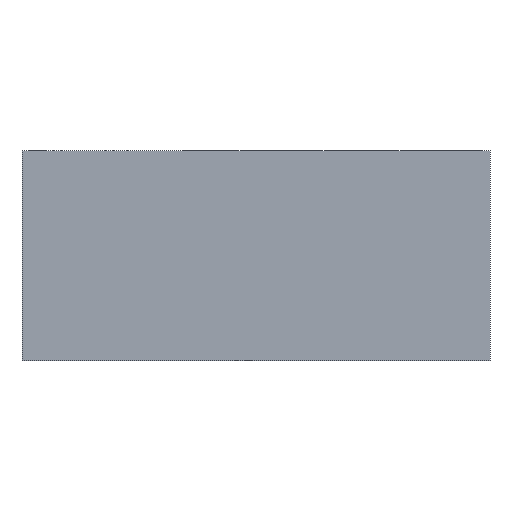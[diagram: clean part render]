
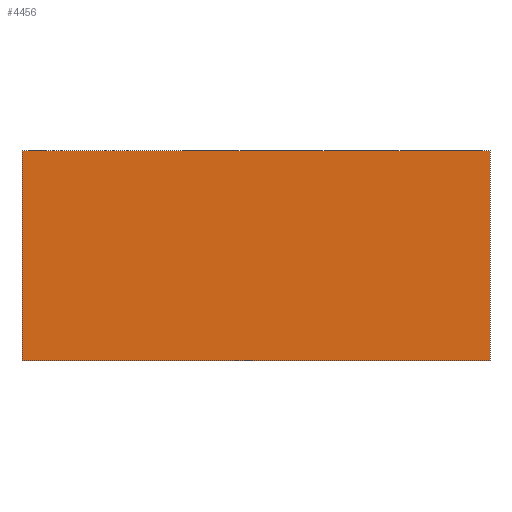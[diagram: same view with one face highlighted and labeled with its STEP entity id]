
A CAD part, front view. The second image highlights one B-rep face of the part: STEP entity #4456.
In plain terms, the highlighted planar face has unit normal (0, -1, 0).
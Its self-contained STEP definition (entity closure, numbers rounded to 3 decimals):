
#418 = PLANE('',#419);
#419 = AXIS2_PLACEMENT_3D('',#420,#421,#422);
#420 = CARTESIAN_POINT('',(330.,49.,105.));
#421 = DIRECTION('',(0.,0.,1.));
#422 = DIRECTION('',(1.,0.,0.));
#1629 = VERTEX_POINT('',#1630);
#1630 = CARTESIAN_POINT('',(139.,-55.,105.));
#1646 = PLANE('',#1647);
#1647 = AXIS2_PLACEMENT_3D('',#1648,#1649,#1650);
#1648 = CARTESIAN_POINT('',(139.,-55.,0.));
#1649 = DIRECTION('',(1.,0.,0.));
#1650 = DIRECTION('',(0.,0.,1.));
#1658 = EDGE_CURVE('',#1629,#1659,#1661,.T.);
#1659 = VERTEX_POINT('',#1660);
#1660 = CARTESIAN_POINT('',(373.,-55.,105.));
#1661 = SURFACE_CURVE('',#1662,(#1666,#1673),.PCURVE_S1.);
#1662 = LINE('',#1663,#1664);
#1663 = CARTESIAN_POINT('',(139.,-55.,105.));
#1664 = VECTOR('',#1665,1.);
#1665 = DIRECTION('',(1.,0.,0.));
#1666 = PCURVE('',#418,#1667);
#1667 = DEFINITIONAL_REPRESENTATION('',(#1668),#1672);
#1668 = LINE('',#1669,#1670);
#1669 = CARTESIAN_POINT('',(-191.,-104.));
#1670 = VECTOR('',#1671,1.);
#1671 = DIRECTION('',(1.,0.));
#1672 = ( GEOMETRIC_REPRESENTATION_CONTEXT(2) 
PARAMETRIC_REPRESENTATION_CONTEXT() REPRESENTATION_CONTEXT('2D SPACE',''
  ) );
#1673 = PCURVE('',#1674,#1679);
#1674 = PLANE('',#1675);
#1675 = AXIS2_PLACEMENT_3D('',#1676,#1677,#1678);
#1676 = CARTESIAN_POINT('',(139.,-55.,0.));
#1677 = DIRECTION('',(0.,1.,0.));
#1678 = DIRECTION('',(0.,0.,1.));
#1679 = DEFINITIONAL_REPRESENTATION('',(#1680),#1684);
#1680 = LINE('',#1681,#1682);
#1681 = CARTESIAN_POINT('',(105.,0.));
#1682 = VECTOR('',#1683,1.);
#1683 = DIRECTION('',(0.,1.));
#1684 = ( GEOMETRIC_REPRESENTATION_CONTEXT(2) 
PARAMETRIC_REPRESENTATION_CONTEXT() REPRESENTATION_CONTEXT('2D SPACE',''
  ) );
#1702 = PLANE('',#1703);
#1703 = AXIS2_PLACEMENT_3D('',#1704,#1705,#1706);
#1704 = CARTESIAN_POINT('',(373.,-55.,0.));
#1705 = DIRECTION('',(1.,0.,0.));
#1706 = DIRECTION('',(0.,0.,1.));
#4323 = EDGE_CURVE('',#4324,#1629,#4326,.T.);
#4324 = VERTEX_POINT('',#4325);
#4325 = CARTESIAN_POINT('',(139.,-55.,0.));
#4326 = SURFACE_CURVE('',#4327,(#4331,#4338),.PCURVE_S1.);
#4327 = LINE('',#4328,#4329);
#4328 = CARTESIAN_POINT('',(139.,-55.,0.));
#4329 = VECTOR('',#4330,1.);
#4330 = DIRECTION('',(0.,0.,1.));
#4331 = PCURVE('',#1646,#4332);
#4332 = DEFINITIONAL_REPRESENTATION('',(#4333),#4337);
#4333 = LINE('',#4334,#4335);
#4334 = CARTESIAN_POINT('',(0.,0.));
#4335 = VECTOR('',#4336,1.);
#4336 = DIRECTION('',(1.,0.));
#4337 = ( GEOMETRIC_REPRESENTATION_CONTEXT(2) 
PARAMETRIC_REPRESENTATION_CONTEXT() REPRESENTATION_CONTEXT('2D SPACE',''
  ) );
#4338 = PCURVE('',#1674,#4339);
#4339 = DEFINITIONAL_REPRESENTATION('',(#4340),#4344);
#4340 = LINE('',#4341,#4342);
#4341 = CARTESIAN_POINT('',(0.,0.));
#4342 = VECTOR('',#4343,1.);
#4343 = DIRECTION('',(1.,0.));
#4344 = ( GEOMETRIC_REPRESENTATION_CONTEXT(2) 
PARAMETRIC_REPRESENTATION_CONTEXT() REPRESENTATION_CONTEXT('2D SPACE',''
  ) );
#4362 = PLANE('',#4363);
#4363 = AXIS2_PLACEMENT_3D('',#4364,#4365,#4366);
#4364 = CARTESIAN_POINT('',(139.,-55.,0.));
#4365 = DIRECTION('',(0.,0.,1.));
#4366 = DIRECTION('',(1.,0.,0.));
#4456 = ADVANCED_FACE('',(#4457),#1674,.F.);
#4457 = FACE_BOUND('',#4458,.F.);
#4458 = EDGE_LOOP('',(#4459,#4482,#4483,#4484));
#4459 = ORIENTED_EDGE('',*,*,#4460,.F.);
#4460 = EDGE_CURVE('',#4324,#4461,#4463,.T.);
#4461 = VERTEX_POINT('',#4462);
#4462 = CARTESIAN_POINT('',(373.,-55.,0.));
#4463 = SURFACE_CURVE('',#4464,(#4468,#4475),.PCURVE_S1.);
#4464 = LINE('',#4465,#4466);
#4465 = CARTESIAN_POINT('',(139.,-55.,0.));
#4466 = VECTOR('',#4467,1.);
#4467 = DIRECTION('',(1.,0.,0.));
#4468 = PCURVE('',#1674,#4469);
#4469 = DEFINITIONAL_REPRESENTATION('',(#4470),#4474);
#4470 = LINE('',#4471,#4472);
#4471 = CARTESIAN_POINT('',(0.,0.));
#4472 = VECTOR('',#4473,1.);
#4473 = DIRECTION('',(0.,1.));
#4474 = ( GEOMETRIC_REPRESENTATION_CONTEXT(2) 
PARAMETRIC_REPRESENTATION_CONTEXT() REPRESENTATION_CONTEXT('2D SPACE',''
  ) );
#4475 = PCURVE('',#4362,#4476);
#4476 = DEFINITIONAL_REPRESENTATION('',(#4477),#4481);
#4477 = LINE('',#4478,#4479);
#4478 = CARTESIAN_POINT('',(0.,0.));
#4479 = VECTOR('',#4480,1.);
#4480 = DIRECTION('',(1.,0.));
#4481 = ( GEOMETRIC_REPRESENTATION_CONTEXT(2) 
PARAMETRIC_REPRESENTATION_CONTEXT() REPRESENTATION_CONTEXT('2D SPACE',''
  ) );
#4482 = ORIENTED_EDGE('',*,*,#4323,.T.);
#4483 = ORIENTED_EDGE('',*,*,#1658,.T.);
#4484 = ORIENTED_EDGE('',*,*,#4485,.F.);
#4485 = EDGE_CURVE('',#4461,#1659,#4486,.T.);
#4486 = SURFACE_CURVE('',#4487,(#4491,#4498),.PCURVE_S1.);
#4487 = LINE('',#4488,#4489);
#4488 = CARTESIAN_POINT('',(373.,-55.,0.));
#4489 = VECTOR('',#4490,1.);
#4490 = DIRECTION('',(0.,0.,1.));
#4491 = PCURVE('',#1674,#4492);
#4492 = DEFINITIONAL_REPRESENTATION('',(#4493),#4497);
#4493 = LINE('',#4494,#4495);
#4494 = CARTESIAN_POINT('',(0.,234.));
#4495 = VECTOR('',#4496,1.);
#4496 = DIRECTION('',(1.,0.));
#4497 = ( GEOMETRIC_REPRESENTATION_CONTEXT(2) 
PARAMETRIC_REPRESENTATION_CONTEXT() REPRESENTATION_CONTEXT('2D SPACE',''
  ) );
#4498 = PCURVE('',#1702,#4499);
#4499 = DEFINITIONAL_REPRESENTATION('',(#4500),#4504);
#4500 = LINE('',#4501,#4502);
#4501 = CARTESIAN_POINT('',(0.,0.));
#4502 = VECTOR('',#4503,1.);
#4503 = DIRECTION('',(1.,0.));
#4504 = ( GEOMETRIC_REPRESENTATION_CONTEXT(2) 
PARAMETRIC_REPRESENTATION_CONTEXT() REPRESENTATION_CONTEXT('2D SPACE',''
  ) );
